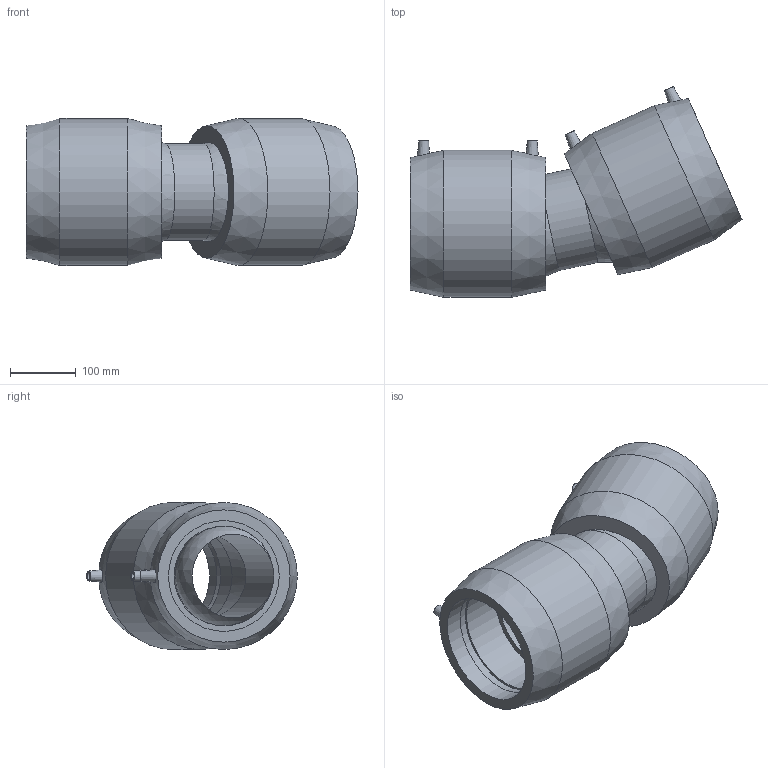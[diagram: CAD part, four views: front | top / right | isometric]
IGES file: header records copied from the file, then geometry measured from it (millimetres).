
Global section: file name: 5947B003060.ipt; native system: Autodesk Inventor 2019; preprocessor: unknown; author: KIM; date: 20210830.101215; units: inch
Bounding box: 503.61 x 319.64 x 223.01 mm (x, y, z)
Volume: 7911670.9 mm3; surface area: 678993.8 mm2
Topology: 1 solids, 1 shells, 50 faces, 114 edges, 78 vertices
Faces by surface type: plane 20, revolution 13, cone 8, cylinder 7, sphere 2
Full cylindrical faces by diameter (mm): 4 x4, 147.08 x1, 223.012 x2
